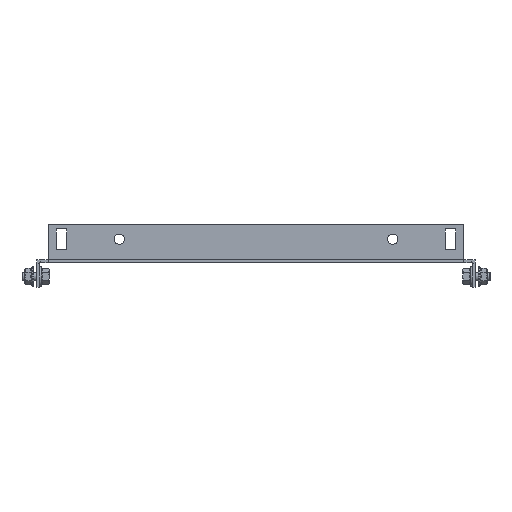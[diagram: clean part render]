
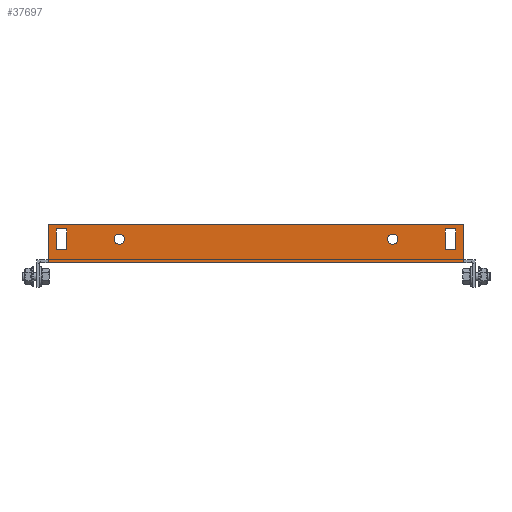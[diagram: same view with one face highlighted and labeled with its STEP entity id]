
A CAD part, front view. The second image highlights one B-rep face of the part: STEP entity #37697.
In plain terms, the highlighted planar face has unit normal (0, -1, 0).
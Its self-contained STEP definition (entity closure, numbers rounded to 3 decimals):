
#33894 = VERTEX_POINT('',#33895);
#33895 = CARTESIAN_POINT('',(142.,-284.5,0.));
#33901 = EDGE_CURVE('',#33902,#33894,#33904,.T.);
#33902 = VERTEX_POINT('',#33903);
#33903 = CARTESIAN_POINT('',(-142.,-284.5,0.));
#33904 = LINE('',#33905,#33906);
#33905 = CARTESIAN_POINT('',(-142.,-284.5,0.));
#33906 = VECTOR('',#33907,1.);
#33907 = DIRECTION('',(1.,-0.,-0.));
#37576 = VERTEX_POINT('',#37577);
#37577 = CARTESIAN_POINT('',(-142.,-284.5,2.6));
#37592 = EDGE_CURVE('',#37576,#33902,#37593,.T.);
#37593 = LINE('',#37594,#37595);
#37594 = CARTESIAN_POINT('',(-142.,-284.5,2.6));
#37595 = VECTOR('',#37596,1.);
#37596 = DIRECTION('',(0.,0.,-1.));
#37616 = VERTEX_POINT('',#37617);
#37617 = CARTESIAN_POINT('',(142.,-284.5,2.6));
#37623 = EDGE_CURVE('',#37616,#33894,#37624,.T.);
#37624 = LINE('',#37625,#37626);
#37625 = CARTESIAN_POINT('',(142.,-284.5,2.));
#37626 = VECTOR('',#37627,1.);
#37627 = DIRECTION('',(-0.,0.,-1.));
#37649 = VERTEX_POINT('',#37650);
#37650 = CARTESIAN_POINT('',(142.,-284.5,26.));
#37656 = EDGE_CURVE('',#37616,#37649,#37657,.T.);
#37657 = LINE('',#37658,#37659);
#37658 = CARTESIAN_POINT('',(142.,-284.5,26.));
#37659 = VECTOR('',#37660,1.);
#37660 = DIRECTION('',(-0.,0.,1.));
#37671 = EDGE_CURVE('',#37672,#37576,#37674,.T.);
#37672 = VERTEX_POINT('',#37673);
#37673 = CARTESIAN_POINT('',(-142.,-284.5,26.));
#37674 = LINE('',#37675,#37676);
#37675 = CARTESIAN_POINT('',(-142.,-284.5,2.));
#37676 = VECTOR('',#37677,1.);
#37677 = DIRECTION('',(-0.,0.,-1.));
#37697 = ADVANCED_FACE('',(#37698,#37732,#37743,#37754,#37788),#37801,
  .F.);
#37698 = FACE_BOUND('',#37699,.T.);
#37699 = EDGE_LOOP('',(#37700,#37710,#37718,#37726));
#37700 = ORIENTED_EDGE('',*,*,#37701,.F.);
#37701 = EDGE_CURVE('',#37702,#37704,#37706,.T.);
#37702 = VERTEX_POINT('',#37703);
#37703 = CARTESIAN_POINT('',(136.5,-284.5,9.));
#37704 = VERTEX_POINT('',#37705);
#37705 = CARTESIAN_POINT('',(136.5,-284.5,23.));
#37706 = LINE('',#37707,#37708);
#37707 = CARTESIAN_POINT('',(136.5,-284.5,23.));
#37708 = VECTOR('',#37709,1.);
#37709 = DIRECTION('',(-0.,-0.,1.));
#37710 = ORIENTED_EDGE('',*,*,#37711,.F.);
#37711 = EDGE_CURVE('',#37712,#37702,#37714,.T.);
#37712 = VERTEX_POINT('',#37713);
#37713 = CARTESIAN_POINT('',(129.5,-284.5,9.));
#37714 = LINE('',#37715,#37716);
#37715 = CARTESIAN_POINT('',(136.5,-284.5,9.));
#37716 = VECTOR('',#37717,1.);
#37717 = DIRECTION('',(1.,-0.,-0.));
#37718 = ORIENTED_EDGE('',*,*,#37719,.F.);
#37719 = EDGE_CURVE('',#37720,#37712,#37722,.T.);
#37720 = VERTEX_POINT('',#37721);
#37721 = CARTESIAN_POINT('',(129.5,-284.5,23.));
#37722 = LINE('',#37723,#37724);
#37723 = CARTESIAN_POINT('',(129.5,-284.5,9.));
#37724 = VECTOR('',#37725,1.);
#37725 = DIRECTION('',(0.,-0.,-1.));
#37726 = ORIENTED_EDGE('',*,*,#37727,.F.);
#37727 = EDGE_CURVE('',#37704,#37720,#37728,.T.);
#37728 = LINE('',#37729,#37730);
#37729 = CARTESIAN_POINT('',(129.5,-284.5,23.));
#37730 = VECTOR('',#37731,1.);
#37731 = DIRECTION('',(-1.,-0.,-0.));
#37732 = FACE_BOUND('',#37733,.T.);
#37733 = EDGE_LOOP('',(#37734));
#37734 = ORIENTED_EDGE('',*,*,#37735,.F.);
#37735 = EDGE_CURVE('',#37736,#37736,#37738,.T.);
#37736 = VERTEX_POINT('',#37737);
#37737 = CARTESIAN_POINT('',(93.5,-284.5,19.5));
#37738 = CIRCLE('',#37739,3.5);
#37739 = AXIS2_PLACEMENT_3D('',#37740,#37741,#37742);
#37740 = CARTESIAN_POINT('',(93.5,-284.5,16.));
#37741 = DIRECTION('',(0.,-1.,0.));
#37742 = DIRECTION('',(0.,0.,1.));
#37743 = FACE_BOUND('',#37744,.T.);
#37744 = EDGE_LOOP('',(#37745));
#37745 = ORIENTED_EDGE('',*,*,#37746,.F.);
#37746 = EDGE_CURVE('',#37747,#37747,#37749,.T.);
#37747 = VERTEX_POINT('',#37748);
#37748 = CARTESIAN_POINT('',(-93.5,-284.5,12.5));
#37749 = CIRCLE('',#37750,3.5);
#37750 = AXIS2_PLACEMENT_3D('',#37751,#37752,#37753);
#37751 = CARTESIAN_POINT('',(-93.5,-284.5,16.));
#37752 = DIRECTION('',(0.,-1.,0.));
#37753 = DIRECTION('',(0.,0.,-1.));
#37754 = FACE_BOUND('',#37755,.T.);
#37755 = EDGE_LOOP('',(#37756,#37766,#37774,#37782));
#37756 = ORIENTED_EDGE('',*,*,#37757,.F.);
#37757 = EDGE_CURVE('',#37758,#37760,#37762,.T.);
#37758 = VERTEX_POINT('',#37759);
#37759 = CARTESIAN_POINT('',(-136.5,-284.5,23.));
#37760 = VERTEX_POINT('',#37761);
#37761 = CARTESIAN_POINT('',(-136.5,-284.5,9.));
#37762 = LINE('',#37763,#37764);
#37763 = CARTESIAN_POINT('',(-136.5,-284.5,9.));
#37764 = VECTOR('',#37765,1.);
#37765 = DIRECTION('',(-0.,-0.,-1.));
#37766 = ORIENTED_EDGE('',*,*,#37767,.F.);
#37767 = EDGE_CURVE('',#37768,#37758,#37770,.T.);
#37768 = VERTEX_POINT('',#37769);
#37769 = CARTESIAN_POINT('',(-129.5,-284.5,23.));
#37770 = LINE('',#37771,#37772);
#37771 = CARTESIAN_POINT('',(-136.5,-284.5,23.));
#37772 = VECTOR('',#37773,1.);
#37773 = DIRECTION('',(-1.,-0.,-0.));
#37774 = ORIENTED_EDGE('',*,*,#37775,.F.);
#37775 = EDGE_CURVE('',#37776,#37768,#37778,.T.);
#37776 = VERTEX_POINT('',#37777);
#37777 = CARTESIAN_POINT('',(-129.5,-284.5,9.));
#37778 = LINE('',#37779,#37780);
#37779 = CARTESIAN_POINT('',(-129.5,-284.5,23.));
#37780 = VECTOR('',#37781,1.);
#37781 = DIRECTION('',(-0.,-0.,1.));
#37782 = ORIENTED_EDGE('',*,*,#37783,.F.);
#37783 = EDGE_CURVE('',#37760,#37776,#37784,.T.);
#37784 = LINE('',#37785,#37786);
#37785 = CARTESIAN_POINT('',(-129.5,-284.5,9.));
#37786 = VECTOR('',#37787,1.);
#37787 = DIRECTION('',(1.,-0.,-0.));
#37788 = FACE_BOUND('',#37789,.T.);
#37789 = EDGE_LOOP('',(#37790,#37791,#37792,#37793,#37794,#37795));
#37790 = ORIENTED_EDGE('',*,*,#37671,.T.);
#37791 = ORIENTED_EDGE('',*,*,#37592,.T.);
#37792 = ORIENTED_EDGE('',*,*,#33901,.T.);
#37793 = ORIENTED_EDGE('',*,*,#37623,.F.);
#37794 = ORIENTED_EDGE('',*,*,#37656,.T.);
#37795 = ORIENTED_EDGE('',*,*,#37796,.T.);
#37796 = EDGE_CURVE('',#37649,#37672,#37797,.T.);
#37797 = LINE('',#37798,#37799);
#37798 = CARTESIAN_POINT('',(-142.,-284.5,26.));
#37799 = VECTOR('',#37800,1.);
#37800 = DIRECTION('',(-1.,-0.,-0.));
#37801 = PLANE('',#37802);
#37802 = AXIS2_PLACEMENT_3D('',#37803,#37804,#37805);
#37803 = CARTESIAN_POINT('',(142.,-284.5,2.));
#37804 = DIRECTION('',(-0.,1.,0.));
#37805 = DIRECTION('',(0.,0.,1.));
